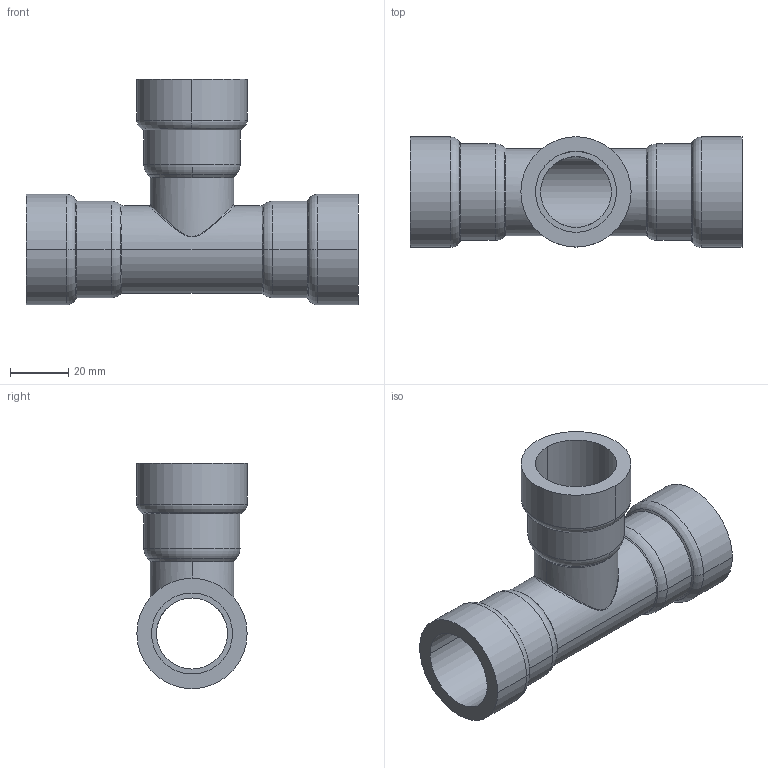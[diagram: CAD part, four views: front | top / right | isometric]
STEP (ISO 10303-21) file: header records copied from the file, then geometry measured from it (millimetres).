
FILE_DESCRIPTION(('Creo Elements/Direct Modeling STEP Export'),'2;1');
FILE_NAME('C9414_3-4.stp','2020-07-14T16:25:48',(''),(''),'PTC Creo Elements/Direct Modeling STEP processor for AP214 (Solid Model)','PTC Creo Elements/Direct Modeling 19.0C 15-Aug-2015 (C) Parametric Technology GmbH','');
FILE_SCHEMA(('AUTOMOTIVE_DESIGN { 1 0 10303 214 1 1 1 1 }'));
Length unit declared in the file: millimetre
Products named in the file (1): 9414_3-4
Bounding box: 114.03 x 37.9 x 77.4 mm (x, y, z)
Volume: 50662.3 mm3; surface area: 31591.8 mm2
Topology: 1 solids, 1 shells, 60 faces, 142 edges, 88 vertices
Faces by surface type: cylinder 26, torus 12, cone 12, plane 6, bspline 4
Entity records: 6898 total; most frequent: CARTESIAN_POINT 5649, ORIENTED_EDGE 284, DIRECTION 236, EDGE_CURVE 142, AXIS2_PLACEMENT_3D 99, VERTEX_POINT 88, EDGE_LOOP 68, FACE_OUTER_BOUND 60
